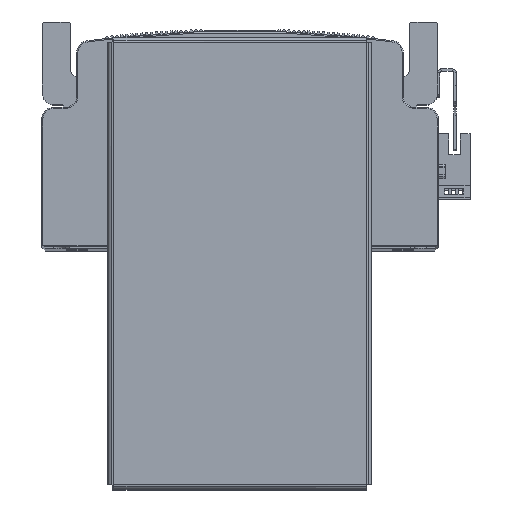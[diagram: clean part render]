
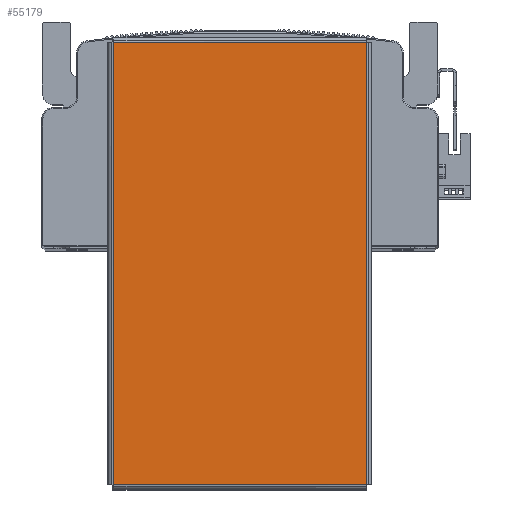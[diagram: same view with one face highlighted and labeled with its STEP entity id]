
A CAD part, top view. The second image highlights one B-rep face of the part: STEP entity #55179.
In plain terms, the highlighted planar face has unit normal (0, 0, 1) as drawn and (0, -1, 0) by its records, which use the part's own axes.
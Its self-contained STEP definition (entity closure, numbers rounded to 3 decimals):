
#7025 = PLANE ( 'NONE',  #58497 ) ;
#7032 = DIRECTION ( 'NONE',  ( 0., 1., 0. ) ) ;
#7037 = DIRECTION ( 'NONE',  ( 0., 0., 1. ) ) ;
#7052 = CARTESIAN_POINT ( 'NONE',  ( 0., -1.5, 0. ) ) ;
#16242 = FACE_OUTER_BOUND ( 'NONE', #44659, .T. ) ;
#21756 = CARTESIAN_POINT ( 'NONE',  ( 94.763, -1.5, -54.363 ) ) ;
#21847 = CARTESIAN_POINT ( 'NONE',  ( -94.763, -1.5, -54.363 ) ) ;
#21849 = CARTESIAN_POINT ( 'NONE',  ( 94.763, -1.5, 54.363 ) ) ;
#21863 = CARTESIAN_POINT ( 'NONE',  ( -94.763, -1.5, 54.363 ) ) ;
#23315 = VECTOR ( 'NONE', #29911, 1000. ) ;
#23345 = LINE ( 'NONE', #29941, #23357 ) ;
#23357 = VECTOR ( 'NONE', #29921, 1000. ) ;
#23370 = LINE ( 'NONE', #29888, #23315 ) ;
#24412 = LINE ( 'NONE', #29736, #24523 ) ;
#24523 = VECTOR ( 'NONE', #29778, 1000. ) ;
#25522 = VECTOR ( 'NONE', #29780, 1000. ) ;
#25565 = LINE ( 'NONE', #29770, #25522 ) ;
#29736 = CARTESIAN_POINT ( 'NONE',  ( 94.793, -1.5, 54.363 ) ) ;
#29770 = CARTESIAN_POINT ( 'NONE',  ( -94.763, -1.5, 54.393 ) ) ;
#29778 = DIRECTION ( 'NONE',  ( -1., 0., 0. ) ) ;
#29780 = DIRECTION ( 'NONE',  ( 0., 0., -1. ) ) ;
#29888 = CARTESIAN_POINT ( 'NONE',  ( 94.763, -1.5, -54.393 ) ) ;
#29911 = DIRECTION ( 'NONE',  ( 0., 0., 1. ) ) ;
#29921 = DIRECTION ( 'NONE',  ( 1., 0., 0. ) ) ;
#29941 = CARTESIAN_POINT ( 'NONE',  ( -94.793, -1.5, -54.363 ) ) ;
#39792 = VERTEX_POINT ( 'NONE', #21756 ) ;
#39819 = VERTEX_POINT ( 'NONE', #21849 ) ;
#39821 = VERTEX_POINT ( 'NONE', #21847 ) ;
#39854 = VERTEX_POINT ( 'NONE', #21863 ) ;
#40968 = EDGE_CURVE ( 'NONE', #39819, #39854, #24412, .T. ) ;
#40977 = EDGE_CURVE ( 'NONE', #39854, #39821, #25565, .T. ) ;
#41006 = EDGE_CURVE ( 'NONE', #39792, #39819, #23370, .T. ) ;
#41025 = EDGE_CURVE ( 'NONE', #39821, #39792, #23345, .T. ) ;
#44659 = EDGE_LOOP ( 'NONE', ( #64238, #64291, #64279, #64401 ) ) ;
#55179 = ADVANCED_FACE ( 'NONE', ( #16242 ), #7025, .F. ) ;
#58497 = AXIS2_PLACEMENT_3D ( 'NONE', #7052, #7032, #7037 ) ;
#64238 = ORIENTED_EDGE ( 'NONE', *, *, #40968, .T. ) ;
#64279 = ORIENTED_EDGE ( 'NONE', *, *, #41025, .T. ) ;
#64291 = ORIENTED_EDGE ( 'NONE', *, *, #40977, .T. ) ;
#64401 = ORIENTED_EDGE ( 'NONE', *, *, #41006, .T. ) ;
